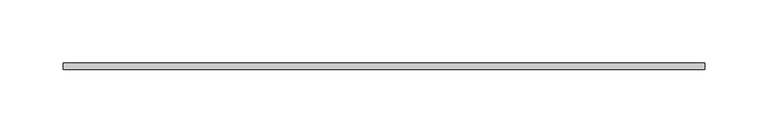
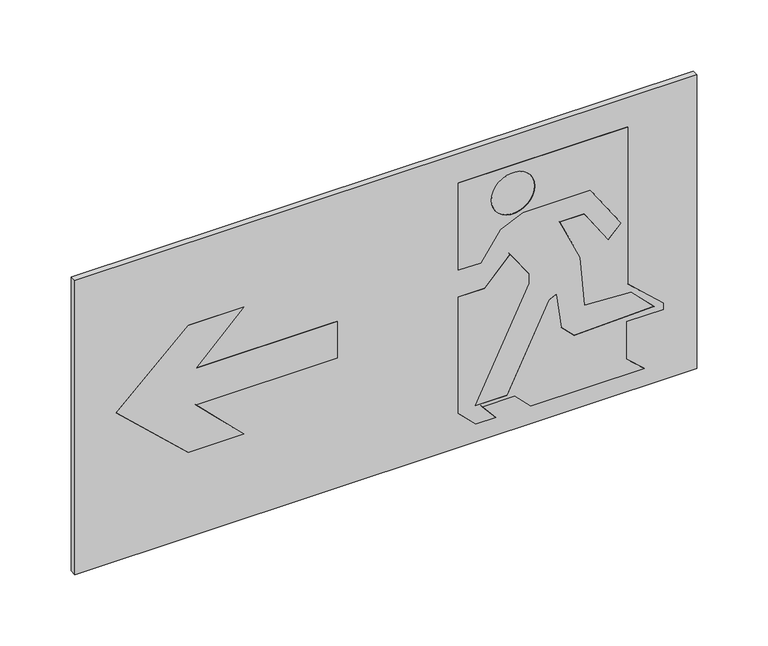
"""IFC4 building model written with IfcOpenShell, lengths in millimetres: flow terminal geometry, PLACA DE SINALIZAÇÃO-S2 : Distancia maxima visibilidade - 10 metros."""

from ifc_helpers import new_model, si_unit, point, frame, frame_2d, origin, place, context, project, spatial, polyline, circle_curve, trimmed, segment, composite_curve, outline, extrude, source, transform, mapped, element, save


def flow_terminal_d03e9d94(model_context):
    return source(origin(), model_context, "Body", "SweptSolid", [
        extrude(outline(polyline([(227.5181482, 196.8742696), (227.5181482, 59.1208179), (152.5181482, 59.1208179), (152.5181482, 77.1670587), (175.4580193, 93.2297294), (183.9103845, 111.3558851), (183.9103845, 166.3558851), (146.6036937, 191.5195658), (135.997092, 180.9129641), (165.0134071, 161.3412125), (165.0134071, 141.3412125), (128.7610956, 158.2459429), (86.4413826, 161.948438), (84.4683967, 199.5952534), (65.6918961, 218.371754), (63.4234288, 153.4113502), (74.0300305, 142.8047485), (103.7380726, 138.6295555), (101.133451, 133.0439264), (31.0152114, 98.8449759), (31.0152114, 72.4090777), (120.894616, 116.2461924), (129.5264142, 116.2461924), (151.2975595, 101.0018723), (129.3569485, 80.5419215), (129.3569485, 59.1208179), (29.3569485, 59.1208179), (15.2148129, 73.2629536), (15.2148129, 89.5766102), (28.3250785, 78.5757912), (28.3250785, 104.7203579), (15.2148129, 117.8306236), (15.2148129, 210.2524922), (28.597425, 195.3895957), (60.6779692, 195.3895957), (60.6779692, 225.3895957), (65.9369645, 225.3895957), (92.5181482, 196.8742696), (227.5181482, 196.8742696)]), holes=[composite_curve([segment(trimmed(circle_curve(frame_2d((203.3084844, 103.3946644)), 17.7066682), [point((203.3084844, 85.6879962))], [point((203.3084844, 121.1013325))], True, "CARTESIAN"), True, "CONTINUOUS"), segment(trimmed(circle_curve(frame_2d((203.3084844, 103.3946644)), 17.7066682), [point((203.3084844, 121.1013325))], [point((203.3084844, 85.6879962))], True, "CARTESIAN"), True, "CONTINUOUS")], self_intersect=False)]), frame((0.0, -5.0, 0.0), z_axis=(0.0, 1.0, 0.0), x_axis=(0.0, 0.0, 1.0)), (0.0, 0.0, 1.0), 5.0),
        extrude(outline(polyline([(142.9136865, -39.3189341), (142.9136865, -154.3189341), (181.8045595, -115.4280611), (181.8045595, -160.4280611), (127.2446907, -218.9363573), (72.6848219, -160.4280611), (72.6848219, -115.4280611), (111.5756948, -154.3189341), (111.5756948, -39.3189341), (142.9136865, -39.3189341)])), frame((0.0, -5.0, 0.0), z_axis=(0.0, 1.0, 0.0), x_axis=(0.0, 0.0, 1.0)), (0.0, 0.0, 1.0), 5.0),
        extrude(outline(polyline([(0.0, -253.0), (0.0, 253.0), (253.0, 253.0), (253.0, -253.0), (0.0, -253.0)]), holes=[polyline([(142.9136865, -154.3189341), (142.9136865, -39.3189341), (111.5756948, -39.3189341), (111.5756948, -154.3189341), (72.6848219, -115.4280611), (72.6848219, -160.4280611), (127.2446907, -218.9363573), (181.8045595, -160.4280611), (181.8045595, -115.4280611), (142.9136865, -154.3189341)]), polyline([(227.5181482, 196.8742696), (92.5181482, 196.8742696), (65.9369645, 225.3895957), (60.6779692, 225.3895957), (60.6779692, 195.3895957), (28.597425, 195.3895957), (15.2148129, 210.2524922), (15.2148129, 117.8306236), (28.3250785, 104.7203579), (28.3250785, 78.5757912), (15.2148129, 89.5766102), (15.2148129, 73.2629536), (29.3569485, 59.1208179), (129.3569485, 59.1208179), (129.3569485, 80.5419215), (151.2975595, 101.0018723), (129.5264142, 116.2461924), (120.894616, 116.2461924), (31.0152114, 72.4090777), (31.0152114, 98.8449759), (101.133451, 133.0439264), (103.7380726, 138.6295555), (74.0300305, 142.8047485), (63.4234288, 153.4113502), (65.6918961, 218.371754), (84.4683967, 199.5952534), (86.4413826, 161.948438), (128.7610956, 158.2459429), (165.0134071, 141.3412125), (165.0134071, 161.3412125), (135.997092, 180.9129641), (146.6036937, 191.5195658), (183.9103845, 166.3558851), (183.9103845, 111.3558851), (175.4580193, 93.2297294), (152.5181482, 77.1670587), (152.5181482, 59.1208179), (227.5181482, 59.1208179), (227.5181482, 196.8742696)])]), frame((0.0, -5.0, 0.0), z_axis=(0.0, 1.0, 0.0), x_axis=(0.0, 0.0, 1.0)), (0.0, 0.0, 1.0), 5.0),
        extrude(outline(composite_curve([segment(trimmed(circle_curve(frame_2d((203.3084844, 103.3946644)), 17.7066682), [point((203.3084844, 121.1013325))], [point((203.3084844, 85.6879962))], False, "CARTESIAN"), True, "CONTINUOUS"), segment(trimmed(circle_curve(frame_2d((203.3084844, 103.3946644)), 17.7066682), [point((203.3084844, 85.6879962))], [point((203.3084844, 121.1013325))], False, "CARTESIAN"), True, "CONTINUOUS")], self_intersect=False)), frame((0.0, -5.0, 0.0), z_axis=(0.0, 1.0, 0.0), x_axis=(0.0, 0.0, 1.0)), (0.0, 0.0, 1.0), 5.0),
    ])


if __name__ == "__main__":
    model = new_model("IFC4")
    model_context = context("Model", 3, world=origin())
    ifc_project = project(units=[si_unit("LENGTHUNIT", "METRE", prefix="MILLI")], contexts=[model_context])
    site = spatial("IfcSite", under=ifc_project)
    building = spatial("IfcBuilding", under=site)
    placement = place(None, origin())
    flow_terminal_shape = flow_terminal_d03e9d94(model_context)
    element("IfcFlowTerminal", 1, ObjectType="PLACA DE SINALIZAÇÃO-S2 : Distancia maxima visibilidade - 10 metros", at=placement, inside=building, context=model_context, shape_type="MappedRepresentation", body=[
        mapped(flow_terminal_shape, transform((0.0, 0.0, 0.0), x_axis=(1.0, 0.0, 0.0), y_axis=(0.0, 1.0, 0.0), z_axis=(0.0, 0.0, 1.0))),
    ])
    save(model, "model.ifc")
